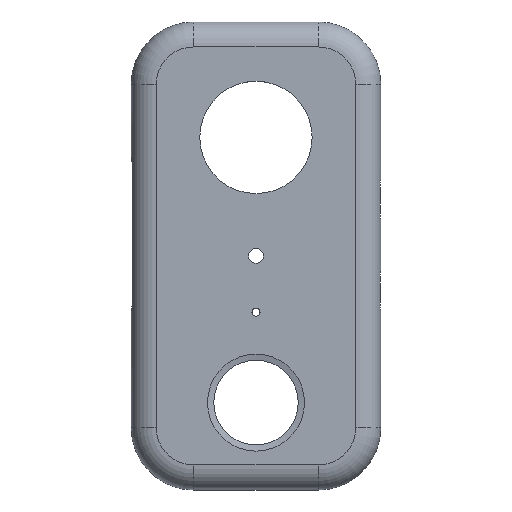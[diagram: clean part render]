
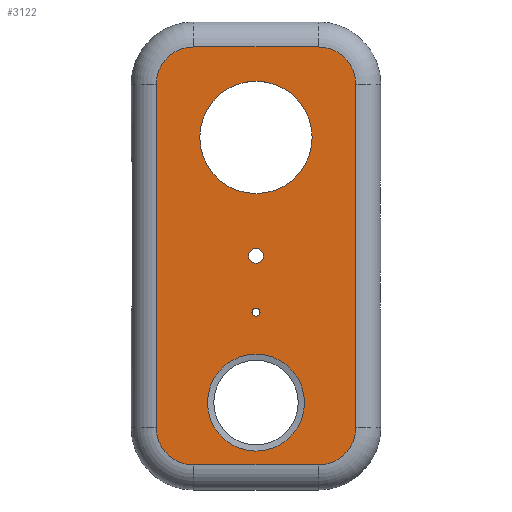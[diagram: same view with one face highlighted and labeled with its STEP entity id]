
A CAD part, top view. The second image highlights one B-rep face of the part: STEP entity #3122.
In plain terms, the highlighted planar face has unit normal (0, 0, 1).
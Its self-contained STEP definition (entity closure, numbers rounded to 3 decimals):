
#77=FACE_BOUND('',#542,.T.);
#78=FACE_BOUND('',#543,.T.);
#79=FACE_BOUND('',#544,.T.);
#80=FACE_BOUND('',#545,.T.);
#142=PLANE('',#3448);
#331=FACE_OUTER_BOUND('',#541,.T.);
#541=EDGE_LOOP('',(#2633,#2634,#2635,#2636,#2637,#2638,#2639,#2640));
#542=EDGE_LOOP('',(#2641));
#543=EDGE_LOOP('',(#2642));
#544=EDGE_LOOP('',(#2643));
#545=EDGE_LOOP('',(#2644));
#803=LINE('',#5725,#1060);
#806=LINE('',#5740,#1063);
#807=LINE('',#5744,#1064);
#808=LINE('',#5748,#1065);
#1060=VECTOR('',#4237,10.);
#1063=VECTOR('',#4254,10.);
#1064=VECTOR('',#4257,10.);
#1065=VECTOR('',#4262,10.);
#1242=CIRCLE('',#3445,15.55);
#1244=CIRCLE('',#3449,12.);
#1245=CIRCLE('',#3450,12.);
#1246=CIRCLE('',#3451,12.);
#1247=CIRCLE('',#3452,12.);
#1248=CIRCLE('',#3453,18.);
#1249=CIRCLE('',#3454,2.405);
#1250=CIRCLE('',#3455,1.301);
#1522=VERTEX_POINT('',#5722);
#1523=VERTEX_POINT('',#5724);
#1524=VERTEX_POINT('',#5728);
#1526=VERTEX_POINT('',#5736);
#1527=VERTEX_POINT('',#5737);
#1528=VERTEX_POINT('',#5739);
#1529=VERTEX_POINT('',#5741);
#1530=VERTEX_POINT('',#5743);
#1531=VERTEX_POINT('',#5746);
#1532=VERTEX_POINT('',#5749);
#1533=VERTEX_POINT('',#5751);
#1534=VERTEX_POINT('',#5753);
#1921=EDGE_CURVE('',#1522,#1523,#803,.T.);
#1923=EDGE_CURVE('',#1524,#1524,#1242,.T.);
#1927=EDGE_CURVE('',#1526,#1527,#1244,.T.);
#1928=EDGE_CURVE('',#1528,#1526,#806,.T.);
#1929=EDGE_CURVE('',#1529,#1528,#1245,.T.);
#1930=EDGE_CURVE('',#1530,#1529,#807,.T.);
#1931=EDGE_CURVE('',#1523,#1530,#1246,.T.);
#1932=EDGE_CURVE('',#1531,#1522,#1247,.T.);
#1933=EDGE_CURVE('',#1527,#1531,#808,.T.);
#1934=EDGE_CURVE('',#1532,#1532,#1248,.T.);
#1935=EDGE_CURVE('',#1533,#1533,#1249,.T.);
#1936=EDGE_CURVE('',#1534,#1534,#1250,.T.);
#2633=ORIENTED_EDGE('',*,*,#1927,.F.);
#2634=ORIENTED_EDGE('',*,*,#1928,.F.);
#2635=ORIENTED_EDGE('',*,*,#1929,.F.);
#2636=ORIENTED_EDGE('',*,*,#1930,.F.);
#2637=ORIENTED_EDGE('',*,*,#1931,.F.);
#2638=ORIENTED_EDGE('',*,*,#1921,.F.);
#2639=ORIENTED_EDGE('',*,*,#1932,.F.);
#2640=ORIENTED_EDGE('',*,*,#1933,.F.);
#2641=ORIENTED_EDGE('',*,*,#1934,.T.);
#2642=ORIENTED_EDGE('',*,*,#1935,.T.);
#2643=ORIENTED_EDGE('',*,*,#1936,.T.);
#2644=ORIENTED_EDGE('',*,*,#1923,.F.);
#3122=ADVANCED_FACE('',(#331,#77,#78,#79,#80),#142,.T.);
#3445=AXIS2_PLACEMENT_3D('',#5729,#4242,#4243);
#3448=AXIS2_PLACEMENT_3D('',#5735,#4250,#4251);
#3449=AXIS2_PLACEMENT_3D('',#5738,#4252,#4253);
#3450=AXIS2_PLACEMENT_3D('',#5742,#4255,#4256);
#3451=AXIS2_PLACEMENT_3D('',#5745,#4258,#4259);
#3452=AXIS2_PLACEMENT_3D('',#5747,#4260,#4261);
#3453=AXIS2_PLACEMENT_3D('',#5750,#4263,#4264);
#3454=AXIS2_PLACEMENT_3D('',#5752,#4265,#4266);
#3455=AXIS2_PLACEMENT_3D('',#5754,#4267,#4268);
#4237=DIRECTION('',(0.,1.,0.));
#4242=DIRECTION('center_axis',(0.,0.,1.));
#4243=DIRECTION('ref_axis',(1.,0.,0.));
#4250=DIRECTION('center_axis',(0.,0.,1.));
#4251=DIRECTION('ref_axis',(1.,0.,0.));
#4252=DIRECTION('center_axis',(0.,0.,-1.));
#4253=DIRECTION('ref_axis',(0.707,-0.707,0.));
#4254=DIRECTION('',(0.,-1.,0.));
#4255=DIRECTION('center_axis',(0.,0.,-1.));
#4256=DIRECTION('ref_axis',(0.707,0.707,0.));
#4257=DIRECTION('',(1.,0.,0.));
#4258=DIRECTION('center_axis',(0.,0.,-1.));
#4259=DIRECTION('ref_axis',(-0.707,0.707,0.));
#4260=DIRECTION('center_axis',(0.,0.,-1.));
#4261=DIRECTION('ref_axis',(-0.707,-0.707,0.));
#4262=DIRECTION('',(-1.,0.,0.));
#4263=DIRECTION('center_axis',(0.,0.,-1.));
#4264=DIRECTION('ref_axis',(-1.,0.,0.));
#4265=DIRECTION('center_axis',(0.,0.,-1.));
#4266=DIRECTION('ref_axis',(1.,0.,0.));
#4267=DIRECTION('center_axis',(0.,0.,-1.));
#4268=DIRECTION('ref_axis',(1.,0.,0.));
#5722=CARTESIAN_POINT('',(-32.,-55.,0.));
#5724=CARTESIAN_POINT('',(-32.,55.,0.));
#5725=CARTESIAN_POINT('',(-32.,37.5,0.));
#5728=CARTESIAN_POINT('',(-15.55,-47.,0.));
#5729=CARTESIAN_POINT('Origin',(0.,-47.,0.));
#5735=CARTESIAN_POINT('Origin',(0.,0.,0.));
#5736=CARTESIAN_POINT('',(32.,-55.,0.));
#5737=CARTESIAN_POINT('',(20.,-67.,0.));
#5738=CARTESIAN_POINT('Origin',(20.,-55.,0.));
#5739=CARTESIAN_POINT('',(32.,55.,0.));
#5740=CARTESIAN_POINT('',(32.,-37.5,0.));
#5741=CARTESIAN_POINT('',(20.,67.,0.));
#5742=CARTESIAN_POINT('Origin',(20.,55.,0.));
#5743=CARTESIAN_POINT('',(-20.,67.,0.));
#5744=CARTESIAN_POINT('',(20.,67.,0.));
#5745=CARTESIAN_POINT('Origin',(-20.,55.,0.));
#5746=CARTESIAN_POINT('',(-20.,-67.,0.));
#5747=CARTESIAN_POINT('Origin',(-20.,-55.,0.));
#5748=CARTESIAN_POINT('',(-20.,-67.,0.));
#5749=CARTESIAN_POINT('',(17.986,38.,0.));
#5750=CARTESIAN_POINT('Origin',(-0.014,38.,0.));
#5751=CARTESIAN_POINT('',(-2.405,0.,0.));
#5752=CARTESIAN_POINT('Origin',(0.,0.,0.));
#5753=CARTESIAN_POINT('',(-1.301,-18.001,0.));
#5754=CARTESIAN_POINT('Origin',(0.,-18.001,
0.));
